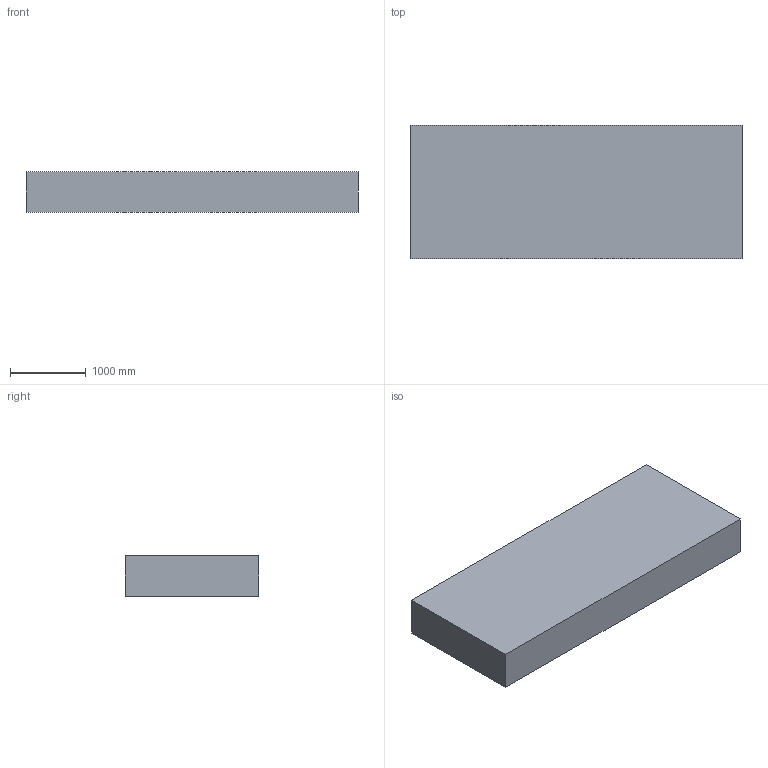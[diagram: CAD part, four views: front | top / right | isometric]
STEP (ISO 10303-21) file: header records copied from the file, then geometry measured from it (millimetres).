
FILE_DESCRIPTION(/* description */ ('ACIS model converted to STEP'),/* implementation_level */ '2;1');
FILE_NAME(/* name */ '200906_ap238',/* time_stamp */ '2002-09-26T09:14:26-04:00',/* author */ ('Me'),/* organization */ ('Company'),/* preprocessor_version */ 'ST-DEVELOPER v9',/* originating_system */ 'ACIS 7.0',/* authorisation */ 'Someone else');
FILE_SCHEMA (('INTEGRATED_CNC_SCHEMA'));
Length unit declared in the file: inch
Bounding box: 4376.01 x 1754.73 x 530.35 mm (x, y, z)
Surface area: 48509406.8 mm2
Topology: 2 solids, 10 shells, 437 faces, 1044 edges, 696 vertices
Faces by surface type: plane 309, cylinder 128
Full cylindrical faces by diameter (mm): 35.966 x8, 38.1 x8, 106.68 x8
Entity records: 37263 total; most frequent: CARTESIAN_POINT 4380, DIRECTION 4241, ORIENTED_EDGE 3288, VECTOR 2274, EDGE_CURVE 1956, PROPERTY_DEFINITION_REPRESENTATION 1734, PROPERTY_DEFINITION 1734, AXIS2_PLACEMENT_3D 1574
